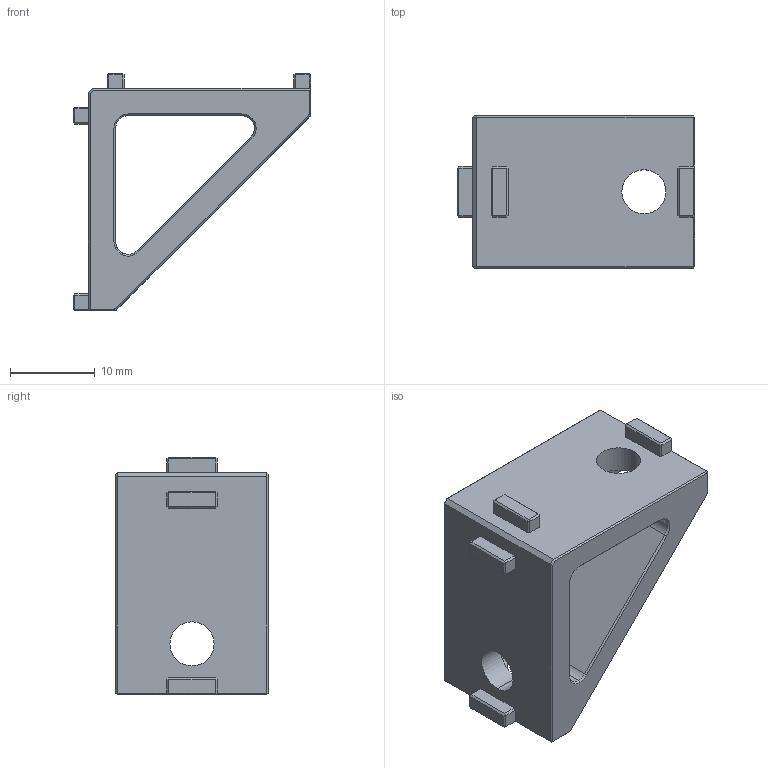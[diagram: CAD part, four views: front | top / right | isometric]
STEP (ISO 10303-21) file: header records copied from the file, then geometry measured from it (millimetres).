
FILE_DESCRIPTION (( 'STEP AP203' ), '1' );
FILE_NAME ('2525型材角件.STEP', '2023-10-12T06:35:50', ( '微软用户' ), ( '微软中国' ), 'SwSTEP 2.0', 'SolidWorks 2019', '' );
FILE_SCHEMA (( 'CONFIG_CONTROL_DESIGN' ));
Length unit declared in the file: millimetre
Products named in the file (1): 2525倰第褒璃
Bounding box: 28 x 18 x 28 mm (x, y, z)
Volume: 3875.9 mm3; surface area: 3200.5 mm2
Topology: 1 solids, 1 shells, 135 faces, 326 edges, 193 vertices
Faces by surface type: plane 103, cylinder 17, cone 11, bspline 4
Entity records: 5880 total; most frequent: CARTESIAN_POINT 2707, ORIENTED_EDGE 652, DIRECTION 603, EDGE_CURVE 326, VECTOR 269, LINE 269, VERTEX_POINT 193, AXIS2_PLACEMENT_3D 167
